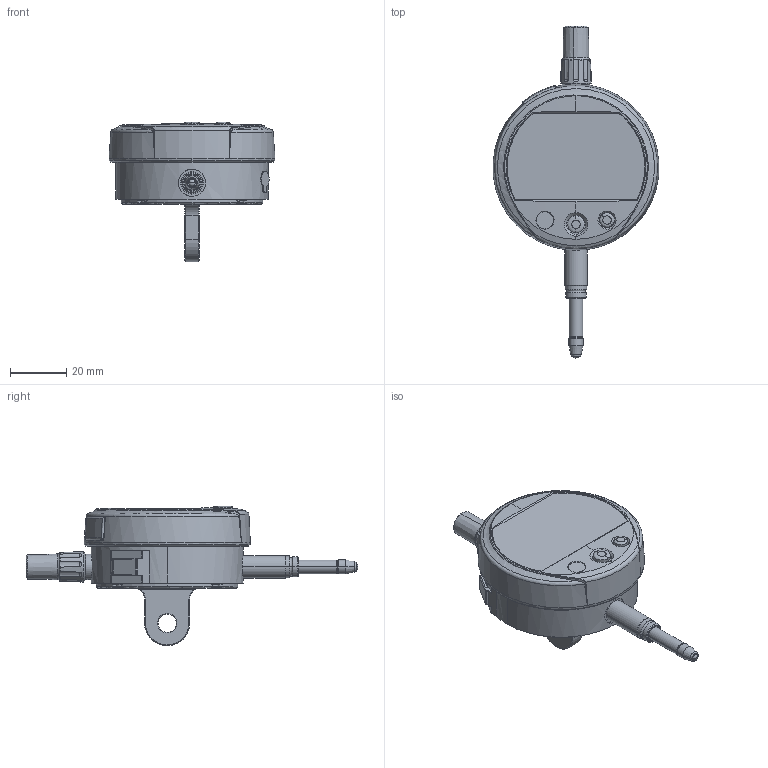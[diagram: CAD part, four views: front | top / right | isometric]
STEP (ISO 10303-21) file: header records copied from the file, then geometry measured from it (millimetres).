
FILE_DESCRIPTION(('Creo Elements/Direct Modeling STEP Export'),'2;1');
FILE_NAME('543-500_AP203.stp','2017-08-02T 8:48:06',(''),(''),'Creo Elements/Direct Modeling STEP processor for AP203 (Solid Model)','Creo Elements/Direct Modeling 18.1B 29-Sep-2012 (C) Parametric Technology GmbH','');
FILE_SCHEMA(('CONFIG_CONTROL_DESIGN'));
Length unit declared in the file: millimetre
Products named in the file (1): Top
Bounding box: 58.87 x 117.8 x 49.5 mm (x, y, z)
Volume: 72748.8 mm3; surface area: 13067.8 mm2
Topology: 1 solids, 2 shells, 471 faces, 1210 edges, 759 vertices
Faces by surface type: plane 133, cylinder 125, cone 76, bspline 70, torus 47, sphere 12, extrusion 4, revolution 4
Entity records: 26948 total; most frequent: CARTESIAN_POINT 16385, ORIENTED_EDGE 2412, DIRECTION 1877, EDGE_CURVE 1204, VERTEX_POINT 759, AXIS2_PLACEMENT_3D 735, EDGE_LOOP 498, FACE_OUTER_BOUND 471
